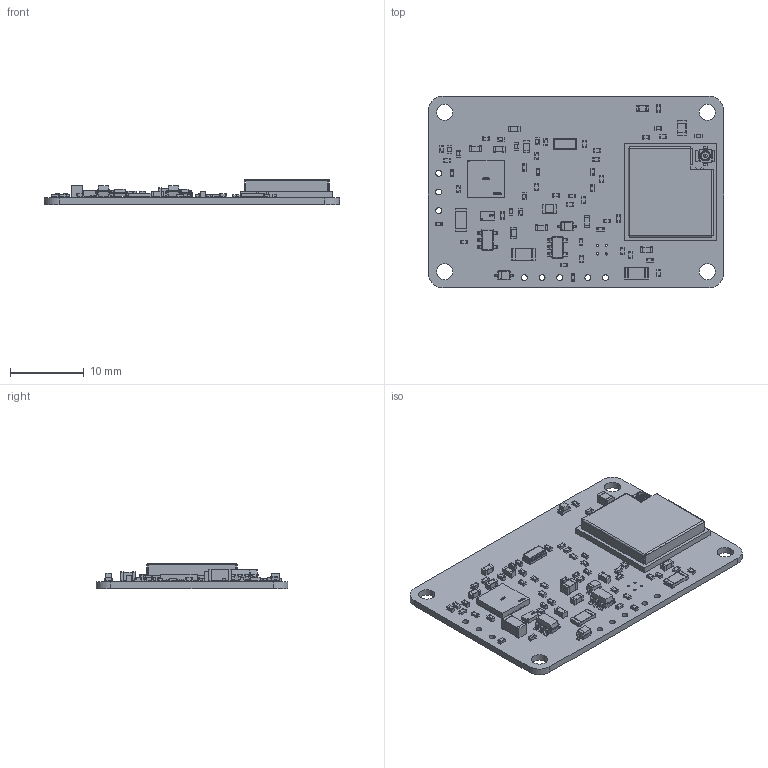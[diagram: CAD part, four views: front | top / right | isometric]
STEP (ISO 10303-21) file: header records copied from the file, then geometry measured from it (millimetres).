
FILE_DESCRIPTION(('KiCad electronic assembly'),'2;1');
FILE_NAME('AVO_GIRTH_REVC_PCB_FINAL_STEP.step','2026-11-15T03:24:09',( 'Pcbnew'),('Kicad'),'Open CASCADE STEP processor 7.6', 'KiCad to STEP converter','Unknown');
FILE_SCHEMA(('AUTOMOTIVE_DESIGN { 1 0 10303 214 1 1 1 1 }'));
Length unit declared in the file: millimetre
Products named in the file (48): AVO_GIRTH_REVC_PCB_FINAL_STEP 1; C_0402_1005Metric; LED_0603_1608Metric; Fuse_1206_3216Metric; C_1206_3216Metric; C_0603_1608Metric; R_0402_1005Metric; SOT-23-5; Crystal_SMD_3215-2Pin_3.2x1.5mm; OSC-SMD_4P-L2.0-W1.2-L-1; D_SOD-323; C_0805_2012Metric; QFN-28_L5.0-W5.0-H0.9-P0.50; ESP32-C6-MINI-1U; ESP32-C6-MINI-1U-body; DesignRootModel; uid__2428; Submodel-IPEX_4P_part_IPEX_4P; Submodel-D__3D_design_ESP32-C6_module_module_ESP32-C6-MINI-1U-3D_PCB_
ESP32-C6-MINI-1U_V1.1_20230317_PCB_3D_ImportedPartModels_ipx3.STEP; ipx3.xtd; Submodel-R0201_part_R0201; Submodel-D__3D_design_ESP32-C6_module_module_ESP32-C6-MINI-1U-3D_PCB_
ESP32-C6-MINI-1U_V1.1_20230317_PCB_3D_ImportedPartModels_R0201_
20210301.STEP; R0201_20210301.xtd; Submodel-L0201_part_L0201; Submodel-D__3D_design_ESP32-C6_module_module_ESP32-C6-MINI-1U-3D_PCB_
ESP32-C6-MINI-1U_V1.1_20230317_PCB_3D_ImportedPartModels_L0201_
20210301.STEP; L0201_20210301.xtd; Submodel-C0201_part_C0201; Submodel-D__3D_design_ESP32-C6_module_module_ESP32-C6-MINI-1U-3D_PCB_
ESP32-C6-MINI-1U_V1.1_20230317_PCB_3D_ImportedPartModels_C0201_
20210301.STEP; C0201_20210301.xtd; Submodel-C0402_part_C0402; Submodel-D__3D_design_ESP32-C6_module_module_ESP32-C6-MINI-1U-3D_PCB_
ESP32-C6-MINI-1U_V1.1_20230317_PCB_3D_ImportedPartModels_C0402_
20210301.STEP; C0402_20210301.xtd; Submodel-SOD882_part_SOD882; Submodel-D__3D_design_ESP32-C6_module_module_ESP32-C6-MINI-1U-3D_PCB_
ESP32-C6-MINI-1U_V1.1_20230317_PCB_3D_ImportedPartModels_DFN1006.STEP; DFN1006.xtd; Submodel-XTAL3225_part_XTAL3225; Submodel-D__3D_design_ESP32-C6_module_module_ESP32-C6-MINI-1U-3D_PCB_
ESP32-C6-MINI-1U_V1.1_20230317_PCB_3D_ImportedPartModels_XTAL3225_
20210301.STEP; XTAL3225_20210301.xtd; Submodel-QFN32_0P5_5_E3P7X3P2_part_QFN32_0P5_5_E3P7X3P2; Submodel-D__3D_design_ESP32-C6_module_module_ESP32-C6-MINI-1U-3D_PCB_
ESP32-C6-MINI-1U_V1.1_20230317_PCB_3D_ImportedPartModels_ESP32-C6_QFN32_
5X5_202306.STEP ...
Assembly tree (115 placements, depth 7):
  AVO_GIRTH_REVC_PCB_FINAL_STEP 1
    C_0402_1005Metric  x20
    LED_0603_1608Metric
    Fuse_1206_3216Metric  x2
    C_1206_3216Metric
    C_0603_1608Metric  x8
    R_0402_1005Metric  x27
    SOT-23-5  x2
    Crystal_SMD_3215-2Pin_3.2x1.5mm
    OSC-SMD_4P-L2.0-W1.2-L-1
    D_SOD-323  x2
    C_0805_2012Metric  x2
    QFN-28_L5.0-W5.0-H0.9-P0.50
    ESP32-C6-MINI-1U
      ESP32-C6-MINI-1U-body
        DesignRootModel
          uid__2428
          Submodel-IPEX_4P_part_IPEX_4P
            Submodel-D__3D_design_ESP32-C6_module_module_ESP32-C6-MINI-1U-3D_PCB_
ESP32-C6-MINI-1U_V1.1_20230317_PCB_3D_ImportedPartModels_ipx3.STEP
              ipx3.xtd
          Submodel-R0201_part_R0201  x3
            Submodel-D__3D_design_ESP32-C6_module_module_ESP32-C6-MINI-1U-3D_PCB_
ESP32-C6-MINI-1U_V1.1_20230317_PCB_3D_ImportedPartModels_R0201_
20210301.STEP
              R0201_20210301.xtd
          Submodel-L0201_part_L0201  x2
            Submodel-D__3D_design_ESP32-C6_module_module_ESP32-C6-MINI-1U-3D_PCB_
ESP32-C6-MINI-1U_V1.1_20230317_PCB_3D_ImportedPartModels_L0201_
20210301.STEP
              L0201_20210301.xtd
          Submodel-C0201_part_C0201  x10
            Submodel-D__3D_design_ESP32-C6_module_module_ESP32-C6-MINI-1U-3D_PCB_
ESP32-C6-MINI-1U_V1.1_20230317_PCB_3D_ImportedPartModels_C0201_
20210301.STEP
              C0201_20210301.xtd
          Submodel-C0402_part_C0402
            Submodel-D__3D_design_ESP32-C6_module_module_ESP32-C6-MINI-1U-3D_PCB_
ESP32-C6-MINI-1U_V1.1_20230317_PCB_3D_ImportedPartModels_C0402_
20210301.STEP
              C0402_20210301.xtd
          Submodel-SOD882_part_SOD882
            Submodel-D__3D_design_ESP32-C6_module_module_ESP32-C6-MINI-1U-3D_PCB_
ESP32-C6-MINI-1U_V1.1_20230317_PCB_3D_ImportedPartModels_DFN1006.STEP
              DFN1006.xtd
          Submodel-XTAL3225_part_XTAL3225
            Submodel-D__3D_design_ESP32-C6_module_module_ESP32-C6-MINI-1U-3D_PCB_
ESP32-C6-MINI-1U_V1.1_20230317_PCB_3D_ImportedPartModels_XTAL3225_
20210301.STEP
              XTAL3225_20210301.xtd
          Submodel-QFN32_0P5_5_E3P7X3P2_part_QFN32_0P5_5_E3P7X3P2
            Submodel-D__3D_design_ESP32-C6_module_module_ESP32-C6-MINI-1U-3D_PCB_
ESP32-C6-MINI-1U_V1.1_20230317_PCB_3D_ImportedPartModels_ESP32-C6_QFN32_
5X5_202306.STEP
              ESP32-C6_QFN32_5X5_202306.xtd
          Submodel-TSSLP-2-1_132530003_part_TSSLP-2-1
            Submodel-noModelForPart_TSSLP-2-1_132530003
              placementOutline
        Imported
        C3-MINI-solder_pad
      ShieldBox_ESP32-C3-MINI-1U_V1.0_20201210
    AVO_GIRTH_REVC_PCB_PCB
Bounding box: 40 x 26 x 3.4 mm (x, y, z)
Volume: 1201.8 mm3; surface area: 3686.9 mm2
Topology: 277 solids, 278 shells, 5478 faces, 13631 edges, 8789 vertices
Faces by surface type: plane 3464, cylinder 1421, bspline 548, torus 36, cone 9
Full cylindrical faces by diameter (mm): 0.3 x4, 0.8 x8, 2.2 x4
Entity records: 107066 total; most frequent: CARTESIAN_POINT 29531, ORIENTED_EDGE 16372, DIRECTION 14356, EDGE_CURVE 8186, LINE 5826, VECTOR 5826, VERTEX_POINT 5371, AXIS2_PLACEMENT_3D 4265
